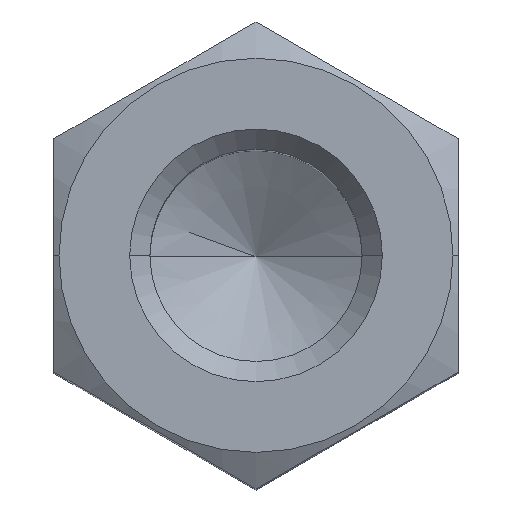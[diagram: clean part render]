
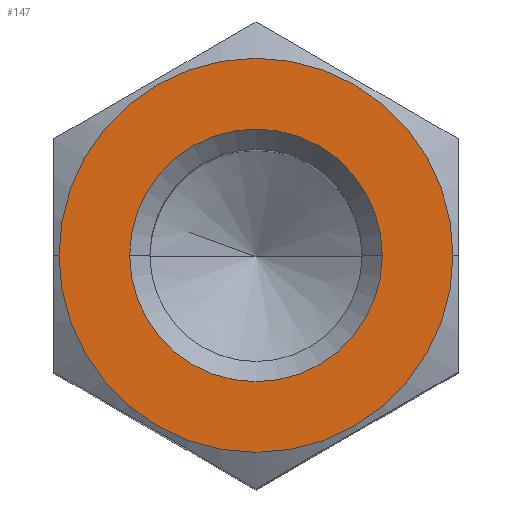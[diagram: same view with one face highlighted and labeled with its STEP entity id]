
A CAD part, top view. The second image highlights one B-rep face of the part: STEP entity #147.
In plain terms, the highlighted planar face has unit normal (0, 0, 1).
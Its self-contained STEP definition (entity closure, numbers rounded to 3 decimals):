
#3 = CIRCLE ( 'NONE', #447, 3.9 ) ;
#11 = CARTESIAN_POINT ( 'NONE',  ( 2.5, 0., 0. ) ) ;
#29 = CARTESIAN_POINT ( 'NONE',  ( 0., 0., 0. ) ) ;
#40 = ORIENTED_EDGE ( 'NONE', *, *, #522, .T. ) ;
#49 = CIRCLE ( 'NONE', #142, 3.9 ) ;
#78 = DIRECTION ( 'NONE',  ( 0., 0., -1. ) ) ;
#87 = DIRECTION ( 'NONE',  ( 0., 0., -1. ) ) ;
#119 = EDGE_LOOP ( 'NONE', ( #723, #278 ) ) ;
#142 = AXIS2_PLACEMENT_3D ( 'NONE', #393, #772, #455 ) ;
#147 = ADVANCED_FACE ( 'NONE', ( #452, #196 ), #589, .T. ) ;
#180 = EDGE_LOOP ( 'NONE', ( #245, #40 ) ) ;
#196 = FACE_OUTER_BOUND ( 'NONE', #119, .T. ) ;
#219 = EDGE_CURVE ( 'NONE', #401, #251, #3, .T. ) ;
#241 = CARTESIAN_POINT ( 'NONE',  ( 3.9, 0., 0. ) ) ;
#242 = DIRECTION ( 'NONE',  ( 0., 0., 1. ) ) ;
#245 = ORIENTED_EDGE ( 'NONE', *, *, #267, .T. ) ;
#251 = VERTEX_POINT ( 'NONE', #312 ) ;
#260 = VERTEX_POINT ( 'NONE', #708 ) ;
#267 = EDGE_CURVE ( 'NONE', #279, #260, #491, .T. ) ;
#278 = ORIENTED_EDGE ( 'NONE', *, *, #219, .T. ) ;
#279 = VERTEX_POINT ( 'NONE', #11 ) ;
#301 = CARTESIAN_POINT ( 'NONE',  ( 0., 0., 0. ) ) ;
#312 = CARTESIAN_POINT ( 'NONE',  ( -3.9, 0., 0. ) ) ;
#322 = DIRECTION ( 'NONE',  ( 1., 0., 0. ) ) ;
#360 = DIRECTION ( 'NONE',  ( 1., 0., 0. ) ) ;
#393 = CARTESIAN_POINT ( 'NONE',  ( 0., 0., 0. ) ) ;
#401 = VERTEX_POINT ( 'NONE', #241 ) ;
#424 = AXIS2_PLACEMENT_3D ( 'NONE', #483, #87, #536 ) ;
#426 = AXIS2_PLACEMENT_3D ( 'NONE', #29, #242, #640 ) ;
#447 = AXIS2_PLACEMENT_3D ( 'NONE', #301, #481, #322 ) ;
#452 = FACE_BOUND ( 'NONE', #180, .T. ) ;
#455 = DIRECTION ( 'NONE',  ( 1., 0., 0. ) ) ;
#481 = DIRECTION ( 'NONE',  ( 0., 0., 1. ) ) ;
#483 = CARTESIAN_POINT ( 'NONE',  ( 0., 0., 0. ) ) ;
#491 = CIRCLE ( 'NONE', #551, 2.5 ) ;
#522 = EDGE_CURVE ( 'NONE', #260, #279, #779, .T. ) ;
#536 = DIRECTION ( 'NONE',  ( 1., 0., 0. ) ) ;
#551 = AXIS2_PLACEMENT_3D ( 'NONE', #778, #78, #360 ) ;
#589 = PLANE ( 'NONE',  #426 ) ;
#640 = DIRECTION ( 'NONE',  ( 1., 0., 0. ) ) ;
#641 = EDGE_CURVE ( 'NONE', #251, #401, #49, .T. ) ;
#708 = CARTESIAN_POINT ( 'NONE',  ( -2.5, 0., 0. ) ) ;
#723 = ORIENTED_EDGE ( 'NONE', *, *, #641, .T. ) ;
#772 = DIRECTION ( 'NONE',  ( 0., 0., 1. ) ) ;
#778 = CARTESIAN_POINT ( 'NONE',  ( 0., 0., 0. ) ) ;
#779 = CIRCLE ( 'NONE', #424, 2.5 ) ;
